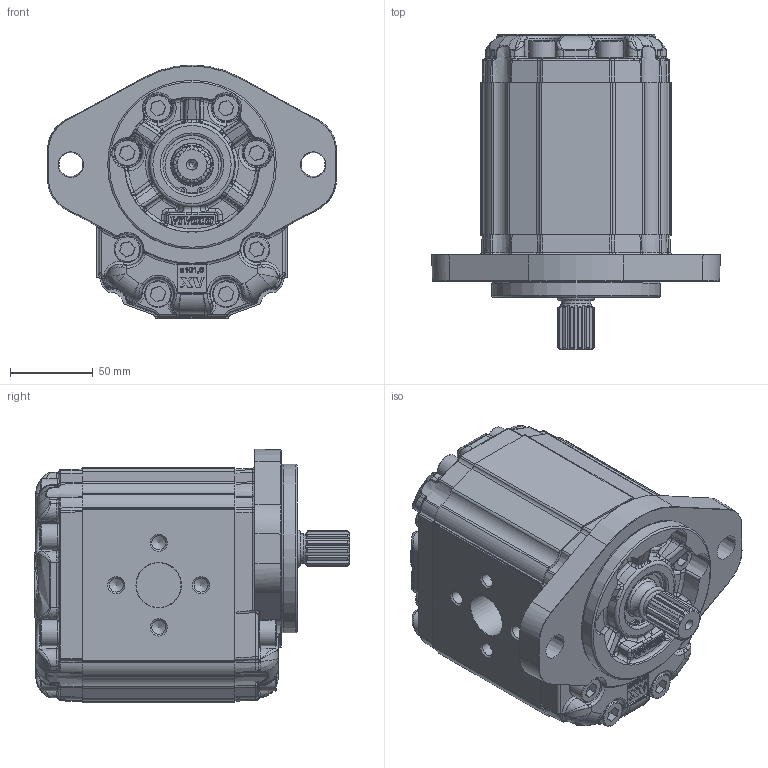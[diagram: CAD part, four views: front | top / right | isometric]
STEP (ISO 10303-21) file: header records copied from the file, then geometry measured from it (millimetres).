
FILE_DESCRIPTION(/* description */ ('Unknown'),/* implementation_level */ '2;1');
FILE_NAME(/* name */ 'X3M8031IBBE',/* time_stamp */ '2021-04-26T12:11:00+02:00',/* author */ ('Unknown'),/* organization */ ('Unknown'),/* preprocessor_version */ 'ST-DEVELOPER v16.7',/* originating_system */ 'Solid Edge',/* authorisation */ 'Unknown');
FILE_SCHEMA (('AUTOMOTIVE_DESIGN {1 0 10303 214 3 1 1}'));
Products named in the file (5): X3M8031IBBE; X3M31; 3I; X3BBH92; XM331-E
Assembly tree (4 placements, depth 2):
  X3M8031IBBE
    X3M31
    3I
    X3BBH92
    XM331-E
Bounding box: 174 x 190.2 x 153 mm (x, y, z)
Volume: 2150439.7 mm3; surface area: 209639.9 mm2
Topology: 4 solids, 21 shells, 2464 faces, 6311 edges, 3984 vertices
Faces by surface type: bspline 1018, plane 715, cylinder 509, cone 107, torus 99, sphere 16
Full cylindrical faces by diameter (mm): 2 x2, 8.376 x8, 10 x16, 15.25 x1, 15.8 x16, 16 x16, 18 x2, 24.98 x1, 25.5 x1, 26.8 x1, 27 x2, 29.425 x1, 31.42 x1, 33.304 x1, 34.7 x1, 35 x2, 35.2 x1, 37 x1, 101.6 x1
Entity records: 136301 total; most frequent: CARTESIAN_POINT 71470, ORIENTED_EDGE 12146, EDGE_CURVE 6073, DIRECTION 5742, VERTEX_POINT 3917, B_SPLINE_CURVE_WITH_KNOTS 3782, FACE_BOUND 2742, EDGE_LOOP 2732
